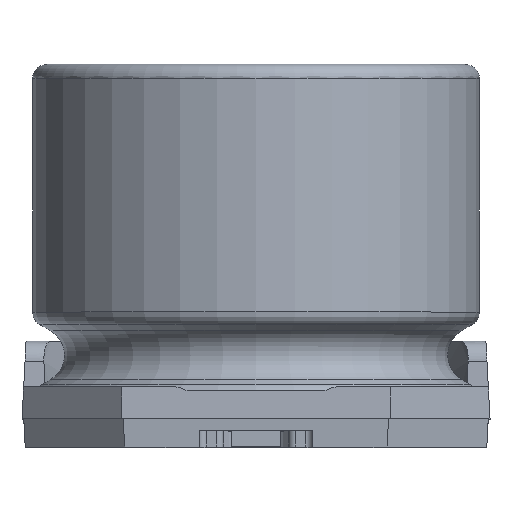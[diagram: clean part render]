
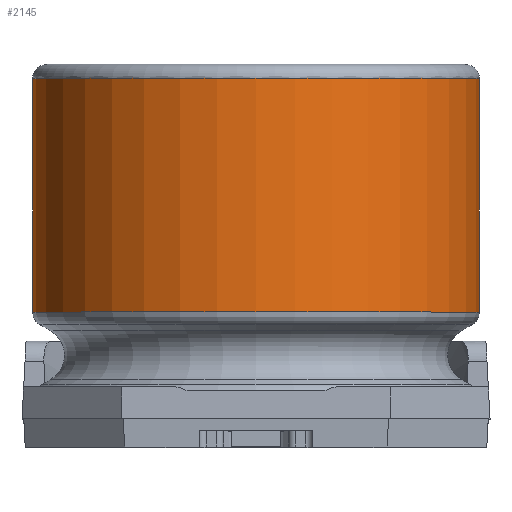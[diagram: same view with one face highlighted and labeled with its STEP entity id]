
A CAD part, top view. The second image highlights one B-rep face of the part: STEP entity #2145.
In plain terms, the highlighted cylindrical face has radius 3.15 mm (diameter 6.3 mm), a full revolution.
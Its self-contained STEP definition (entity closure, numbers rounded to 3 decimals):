
#438 = ORIENTED_EDGE ( 'NONE', *, *, #3228, .T. ) ;
#554 = CARTESIAN_POINT ( 'NONE',  ( 0., 4.8, 0. ) ) ;
#599 = VERTEX_POINT ( 'NONE', #4685 ) ;
#1089 = AXIS2_PLACEMENT_3D ( 'NONE', #554, #4686, #3554 ) ;
#1279 = EDGE_LOOP ( 'NONE', ( #438 ) ) ;
#1477 = AXIS2_PLACEMENT_3D ( 'NONE', #4124, #2996, #2270 ) ;
#1598 = ORIENTED_EDGE ( 'NONE', *, *, #2835, .F. ) ;
#1745 = FACE_OUTER_BOUND ( 'NONE', #1279, .T. ) ;
#1858 = EDGE_LOOP ( 'NONE', ( #1598 ) ) ;
#2145 = ADVANCED_FACE ( 'NONE', ( #1745, #3265 ), #4722, .T. ) ;
#2147 = VERTEX_POINT ( 'NONE', #3943 ) ;
#2203 = CIRCLE ( 'NONE', #1089, 3.15 ) ;
#2270 = DIRECTION ( 'NONE',  ( 0., 0., -1. ) ) ;
#2835 = EDGE_CURVE ( 'NONE', #599, #599, #3149, .T. ) ;
#2996 = DIRECTION ( 'NONE',  ( 0., -1., 0. ) ) ;
#3149 = CIRCLE ( 'NONE', #1477, 3.15 ) ;
#3163 = AXIS2_PLACEMENT_3D ( 'NONE', #3306, #4355, #4000 ) ;
#3228 = EDGE_CURVE ( 'NONE', #2147, #2147, #2203, .T. ) ;
#3265 = FACE_OUTER_BOUND ( 'NONE', #1858, .T. ) ;
#3306 = CARTESIAN_POINT ( 'NONE',  ( 0., 0., 0. ) ) ;
#3554 = DIRECTION ( 'NONE',  ( 0., 0., -1. ) ) ;
#3943 = CARTESIAN_POINT ( 'NONE',  ( 0., 4.8, -3.15 ) ) ;
#4000 = DIRECTION ( 'NONE',  ( 0., 0., -1. ) ) ;
#4124 = CARTESIAN_POINT ( 'NONE',  ( 0., 1.506, 0. ) ) ;
#4355 = DIRECTION ( 'NONE',  ( 0., -1., 0. ) ) ;
#4685 = CARTESIAN_POINT ( 'NONE',  ( 0., 1.506, -3.15 ) ) ;
#4686 = DIRECTION ( 'NONE',  ( 0., -1., 0. ) ) ;
#4722 = CYLINDRICAL_SURFACE ( 'NONE', #3163, 3.15 ) ;
